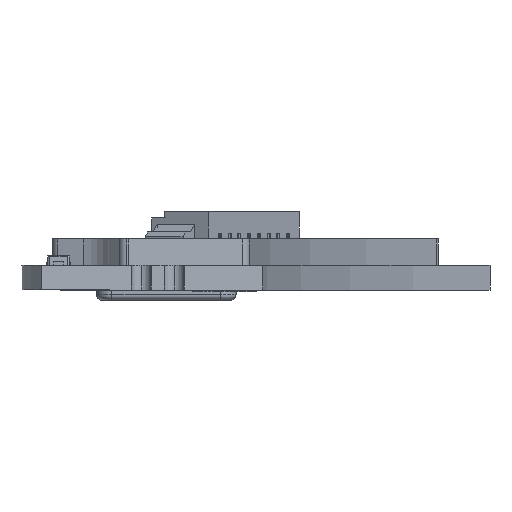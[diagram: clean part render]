
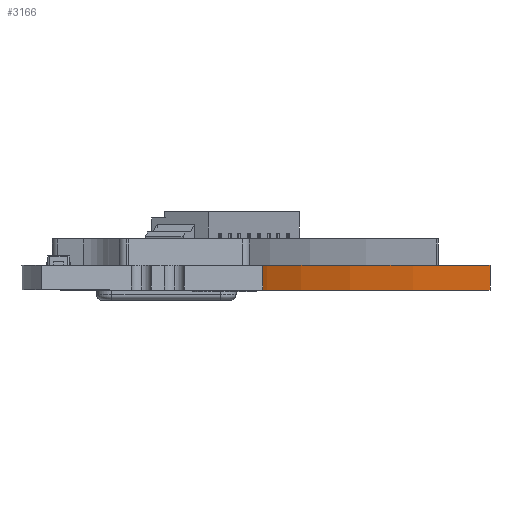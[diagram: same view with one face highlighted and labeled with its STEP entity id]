
A CAD part, left-side view. The second image highlights one B-rep face of the part: STEP entity #3166.
In plain terms, the highlighted cylindrical face has radius 67 mm (diameter 134 mm), a partial arc.
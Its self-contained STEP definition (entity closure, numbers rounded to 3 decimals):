
#1896 = CARTESIAN_POINT ( 'NONE',  ( 43.067, 51.325, -1.6 ) ) ;
#2470 = CYLINDRICAL_SURFACE ( 'NONE', #34813, 67. ) ;
#3166 = ADVANCED_FACE ( 'NONE', ( #36285 ), #2470, .F. ) ;
#4326 = DIRECTION ( 'NONE',  ( 0., 0., 1. ) ) ;
#5435 = DIRECTION ( 'NONE',  ( 0.643, 0.766, 0. ) ) ;
#6289 = EDGE_LOOP ( 'NONE', ( #34069, #21686, #23777, #34610 ) ) ;
#7272 = DIRECTION ( 'NONE',  ( 0., 0., 1. ) ) ;
#7422 = CARTESIAN_POINT ( 'NONE',  ( -11.634, 65.982, -1.6 ) ) ;
#8308 = VERTEX_POINT ( 'NONE', #7422 ) ;
#9914 = AXIS2_PLACEMENT_3D ( 'NONE', #25591, #20020, #20547 ) ;
#11222 = DIRECTION ( 'NONE',  ( 0., 0., -1. ) ) ;
#11567 = VERTEX_POINT ( 'NONE', #20949 ) ;
#12478 = CARTESIAN_POINT ( 'NONE',  ( -11.634, 65.982, -1.6 ) ) ;
#17928 = DIRECTION ( 'NONE',  ( 0.643, 0.766, 0. ) ) ;
#19549 = EDGE_CURVE ( 'NONE', #27460, #11567, #27005, .T. ) ;
#19800 = AXIS2_PLACEMENT_3D ( 'NONE', #35545, #4326, #17928 ) ;
#20020 = DIRECTION ( 'NONE',  ( 0., 0., 1. ) ) ;
#20547 = DIRECTION ( 'NONE',  ( 0.643, 0.766, 0. ) ) ;
#20949 = CARTESIAN_POINT ( 'NONE',  ( 43.067, 51.325, 0. ) ) ;
#21203 = LINE ( 'NONE', #12478, #25051 ) ;
#21686 = ORIENTED_EDGE ( 'NONE', *, *, #34443, .T. ) ;
#22915 = CARTESIAN_POINT ( 'NONE',  ( 0., 0., -1.6 ) ) ;
#23777 = ORIENTED_EDGE ( 'NONE', *, *, #28687, .F. ) ;
#24851 = VERTEX_POINT ( 'NONE', #35100 ) ;
#25051 = VECTOR ( 'NONE', #35487, 1000. ) ;
#25591 = CARTESIAN_POINT ( 'NONE',  ( 0., 0., 0. ) ) ;
#26441 = CARTESIAN_POINT ( 'NONE',  ( 43.067, 51.325, -1.6 ) ) ;
#27005 = LINE ( 'NONE', #1896, #33906 ) ;
#27460 = VERTEX_POINT ( 'NONE', #26441 ) ;
#28077 = CIRCLE ( 'NONE', #19800, 67. ) ;
#28687 = EDGE_CURVE ( 'NONE', #8308, #24851, #21203, .T. ) ;
#31233 = EDGE_CURVE ( 'NONE', #27460, #8308, #28077, .T. ) ;
#33005 = CIRCLE ( 'NONE', #9914, 67. ) ;
#33906 = VECTOR ( 'NONE', #7272, 1000. ) ;
#34069 = ORIENTED_EDGE ( 'NONE', *, *, #19549, .T. ) ;
#34443 = EDGE_CURVE ( 'NONE', #11567, #24851, #33005, .T. ) ;
#34610 = ORIENTED_EDGE ( 'NONE', *, *, #31233, .F. ) ;
#34813 = AXIS2_PLACEMENT_3D ( 'NONE', #22915, #11222, #5435 ) ;
#35100 = CARTESIAN_POINT ( 'NONE',  ( -11.634, 65.982, 0. ) ) ;
#35487 = DIRECTION ( 'NONE',  ( 0., 0., 1. ) ) ;
#35545 = CARTESIAN_POINT ( 'NONE',  ( 0., 0., -1.6 ) ) ;
#36285 = FACE_OUTER_BOUND ( 'NONE', #6289, .T. ) ;
